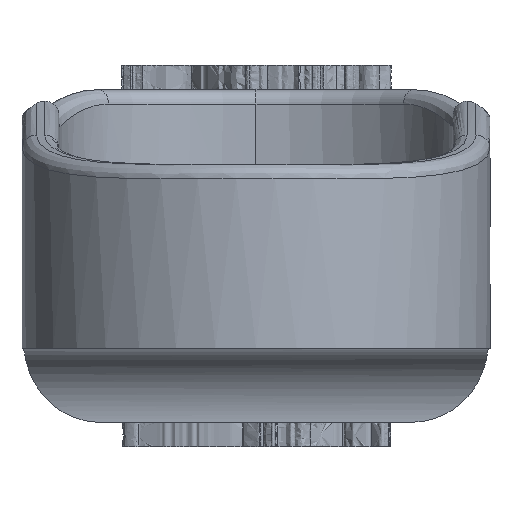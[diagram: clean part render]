
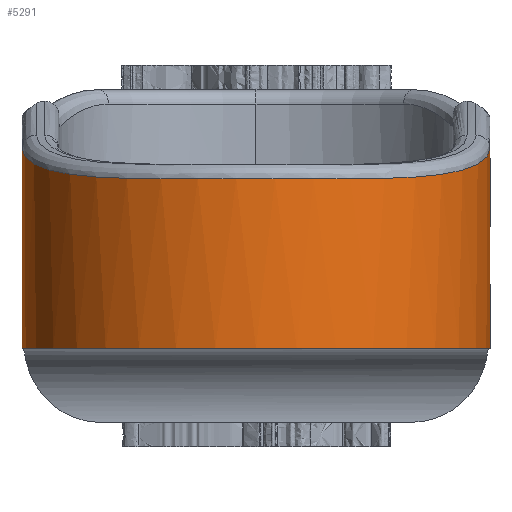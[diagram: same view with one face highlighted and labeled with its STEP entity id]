
A CAD part, front view. The second image highlights one B-rep face of the part: STEP entity #5291.
In plain terms, the highlighted cylindrical face has radius 19 mm (diameter 38 mm), a partial arc.
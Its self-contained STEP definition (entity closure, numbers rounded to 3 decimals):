
#11 = DIRECTION ( 'NONE',  ( -1., 0., 0. ) ) ;
#241 = CARTESIAN_POINT ( 'NONE',  ( 8.463, -58.023, 11.774 ) ) ;
#331 = ORIENTED_EDGE ( 'NONE', *, *, #4825, .T. ) ;
#412 = CARTESIAN_POINT ( 'NONE',  ( 1.265, -59.999, 11.787 ) ) ;
#501 = CARTESIAN_POINT ( 'NONE',  ( -12.581, -55.252, 11.886 ) ) ;
#641 = CARTESIAN_POINT ( 'NONE',  ( -15.158, -52.522, 12.126 ) ) ;
#689 = CARTESIAN_POINT ( 'NONE',  ( -17.343, -48.767, 12.656 ) ) ;
#721 = AXIS2_PLACEMENT_3D ( 'NONE', #3643, #3446, #11 ) ;
#872 = CARTESIAN_POINT ( 'NONE',  ( 19., -41., -2. ) ) ;
#983 = VERTEX_POINT ( 'NONE', #872 ) ;
#1116 = CARTESIAN_POINT ( 'NONE',  ( 2.505, -59.876, 11.783 ) ) ;
#1207 = CARTESIAN_POINT ( 'NONE',  ( -8.448, -58.03, 11.773 ) ) ;
#1247 = EDGE_CURVE ( 'NONE', #2658, #983, #2870, .T. ) ;
#1251 = CARTESIAN_POINT ( 'NONE',  ( -18.85, -43.457, 13.666 ) ) ;
#1392 = CARTESIAN_POINT ( 'NONE',  ( -17.467, -48.483, 12.703 ) ) ;
#1607 = CARTESIAN_POINT ( 'NONE',  ( 18.031, -47.023, 12.958 ) ) ;
#1871 = CARTESIAN_POINT ( 'NONE',  ( 15.152, -52.481, 12.136 ) ) ;
#1897 = VECTOR ( 'NONE', #5588, 1000. ) ;
#2004 = CARTESIAN_POINT ( 'NONE',  ( -18.404, -45.879, 13.169 ) ) ;
#2051 = CARTESIAN_POINT ( 'NONE',  ( -18.76, -44.07, 13.537 ) ) ;
#2225 = FACE_OUTER_BOUND ( 'NONE', #3280, .T. ) ;
#2396 = B_SPLINE_CURVE_WITH_KNOTS ( 'NONE', 3,
 ( #6937, #3325, #8351, #7388, #3998, #1607, #4752, #3066, #5200, #3788, #1871, #3829, #3021, #5292, #6719, #5911, #6890, #241, #8092, #8182, #9113, #7601, #8804, #1116, #412, #2614, #6180, #4888, #9353, #6980, #3562, #3416, #1207, #2804, #8444, #2756, #9301, #501, #9250, #5696, #641, #4938, #8535, #6361, #2664, #689, #1392, #6265, #2004, #2051, #1251, #7120, #8587, #7737 ),
 .UNSPECIFIED., .F., .F.,
 ( 4, 2, 2, 2, 2, 2, 2, 2, 2, 2, 2, 2, 2, 2, 2, 2, 2, 2, 2, 2, 2, 2, 2, 2, 2, 2, 4 ),
 ( 0., 0.004, 0.006, 0.007, 0.011, 0.013, 0.015, 0.019, 0.021, 0.022, 0.024, 0.026, 0.03, 0.032, 0.034, 0.037, 0.039, 0.041, 0.043, 0.045, 0.049, 0.05, 0.051, 0.052, 0.056, 0.058, 0.06 ),
 .UNSPECIFIED. ) ;
#2614 = CARTESIAN_POINT ( 'NONE',  ( -0.607, -60.001, 11.787 ) ) ;
#2658 = VERTEX_POINT ( 'NONE', #6181 ) ;
#2664 = CARTESIAN_POINT ( 'NONE',  ( -17.079, -49.332, 12.566 ) ) ;
#2756 = CARTESIAN_POINT ( 'NONE',  ( -11.119, -56.419, 11.821 ) ) ;
#2804 = CARTESIAN_POINT ( 'NONE',  ( -9.552, -57.436, 11.785 ) ) ;
#2821 = CARTESIAN_POINT ( 'NONE',  ( 19., -41., 11. ) ) ;
#2870 = LINE ( 'NONE', #2821, #7639 ) ;
#3021 = CARTESIAN_POINT ( 'NONE',  ( 13.942, -53.924, 11.99 ) ) ;
#3066 = CARTESIAN_POINT ( 'NONE',  ( 17.121, -49.332, 12.558 ) ) ;
#3280 = EDGE_LOOP ( 'NONE', ( #6371, #331, #6175, #6502 ) ) ;
#3325 = CARTESIAN_POINT ( 'NONE',  ( 19., -42.232, 13.928 ) ) ;
#3404 = CARTESIAN_POINT ( 'NONE',  ( -19., -41., 11. ) ) ;
#3416 = CARTESIAN_POINT ( 'NONE',  ( -7.876, -58.302, 11.771 ) ) ;
#3440 = EDGE_CURVE ( 'NONE', #6832, #6221, #7252, .T. ) ;
#3446 = DIRECTION ( 'NONE',  ( 0., 0., -1. ) ) ;
#3490 = CYLINDRICAL_SURFACE ( 'NONE', #3561, 19. ) ;
#3561 = AXIS2_PLACEMENT_3D ( 'NONE', #5674, #5111, #4360 ) ;
#3562 = CARTESIAN_POINT ( 'NONE',  ( -6.138, -59.025, 11.768 ) ) ;
#3643 = CARTESIAN_POINT ( 'NONE',  ( 0., -41., -2. ) ) ;
#3788 = CARTESIAN_POINT ( 'NONE',  ( 15.521, -51.977, 12.195 ) ) ;
#3829 = CARTESIAN_POINT ( 'NONE',  ( 14.359, -53.458, 12.033 ) ) ;
#3998 = CARTESIAN_POINT ( 'NONE',  ( 18.384, -45.84, 13.181 ) ) ;
#4360 = DIRECTION ( 'NONE',  ( -1., 0., 0. ) ) ;
#4752 = CARTESIAN_POINT ( 'NONE',  ( 17.823, -47.613, 12.851 ) ) ;
#4825 = EDGE_CURVE ( 'NONE', #2658, #6221, #2396, .T. ) ;
#4888 = CARTESIAN_POINT ( 'NONE',  ( -2.488, -59.847, 11.783 ) ) ;
#4938 = CARTESIAN_POINT ( 'NONE',  ( -16.184, -50.972, 12.324 ) ) ;
#5111 = DIRECTION ( 'NONE',  ( 0., 0., -1. ) ) ;
#5200 = CARTESIAN_POINT ( 'NONE',  ( 16.545, -50.423, 12.395 ) ) ;
#5291 = ADVANCED_FACE ( 'NONE', ( #2225 ), #3490, .T. ) ;
#5292 = CARTESIAN_POINT ( 'NONE',  ( 12.627, -55.252, 11.881 ) ) ;
#5343 = CARTESIAN_POINT ( 'NONE',  ( -19., -41., 14.203 ) ) ;
#5566 = DIRECTION ( 'NONE',  ( 0., 0., -1. ) ) ;
#5588 = DIRECTION ( 'NONE',  ( 0., 0., 1. ) ) ;
#5674 = CARTESIAN_POINT ( 'NONE',  ( 0., -41., 11. ) ) ;
#5696 = CARTESIAN_POINT ( 'NONE',  ( -14.375, -53.488, 12.026 ) ) ;
#5911 = CARTESIAN_POINT ( 'NONE',  ( 10.106, -57.102, 11.795 ) ) ;
#6175 = ORIENTED_EDGE ( 'NONE', *, *, #3440, .F. ) ;
#6180 = CARTESIAN_POINT ( 'NONE',  ( -1.233, -59.97, 11.786 ) ) ;
#6181 = CARTESIAN_POINT ( 'NONE',  ( 19., -41., 14.203 ) ) ;
#6221 = VERTEX_POINT ( 'NONE', #5343 ) ;
#6265 = CARTESIAN_POINT ( 'NONE',  ( -18.052, -47.053, 12.947 ) ) ;
#6361 = CARTESIAN_POINT ( 'NONE',  ( -16.939, -49.612, 12.522 ) ) ;
#6371 = ORIENTED_EDGE ( 'NONE', *, *, #1247, .F. ) ;
#6502 = ORIENTED_EDGE ( 'NONE', *, *, #8369, .F. ) ;
#6719 = CARTESIAN_POINT ( 'NONE',  ( 11.669, -56.047, 11.836 ) ) ;
#6832 = VERTEX_POINT ( 'NONE', #7141 ) ;
#6890 = CARTESIAN_POINT ( 'NONE',  ( 9.564, -57.429, 11.785 ) ) ;
#6937 = CARTESIAN_POINT ( 'NONE',  ( 19., -41., 14.203 ) ) ;
#6980 = CARTESIAN_POINT ( 'NONE',  ( -4.947, -59.387, 11.774 ) ) ;
#7120 = CARTESIAN_POINT ( 'NONE',  ( -18.97, -42.231, 13.93 ) ) ;
#7141 = CARTESIAN_POINT ( 'NONE',  ( -19., -41., -2. ) ) ;
#7252 = LINE ( 'NONE', #3404, #1897 ) ;
#7388 = CARTESIAN_POINT ( 'NONE',  ( 18.53, -45.245, 13.298 ) ) ;
#7601 = CARTESIAN_POINT ( 'NONE',  ( 4.967, -59.35, 11.774 ) ) ;
#7639 = VECTOR ( 'NONE', #5566, 1000. ) ;
#7737 = CARTESIAN_POINT ( 'NONE',  ( -19., -41., 14.203 ) ) ;
#8092 = CARTESIAN_POINT ( 'NONE',  ( 7.9, -58.291, 11.771 ) ) ;
#8182 = CARTESIAN_POINT ( 'NONE',  ( 6.75, -58.771, 11.769 ) ) ;
#8351 = CARTESIAN_POINT ( 'NONE',  ( 18.881, -43.447, 13.664 ) ) ;
#8369 = EDGE_CURVE ( 'NONE', #983, #6832, #8576, .T. ) ;
#8444 = CARTESIAN_POINT ( 'NONE',  ( -10.086, -57.114, 11.794 ) ) ;
#8535 = CARTESIAN_POINT ( 'NONE',  ( -16.502, -50.439, 12.398 ) ) ;
#8576 = CIRCLE ( 'NONE', #721, 19. ) ;
#8587 = CARTESIAN_POINT ( 'NONE',  ( -19., -41.616, 14.065 ) ) ;
#8804 = CARTESIAN_POINT ( 'NONE',  ( 4.352, -59.505, 11.776 ) ) ;
#9113 = CARTESIAN_POINT ( 'NONE',  ( 6.164, -58.983, 11.77 ) ) ;
#9250 = CARTESIAN_POINT ( 'NONE',  ( -13.045, -54.828, 11.916 ) ) ;
#9301 = CARTESIAN_POINT ( 'NONE',  ( -11.618, -56.047, 11.839 ) ) ;
#9353 = CARTESIAN_POINT ( 'NONE',  ( -3.11, -59.754, 11.781 ) ) ;
